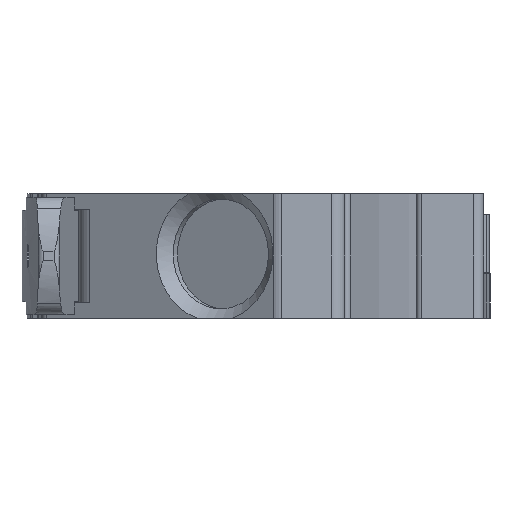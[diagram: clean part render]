
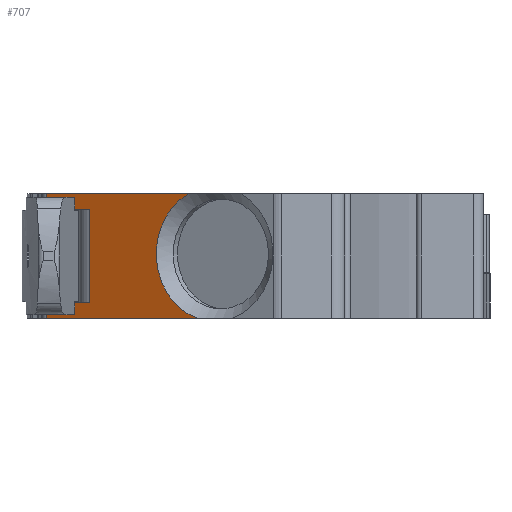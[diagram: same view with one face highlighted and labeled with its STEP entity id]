
A CAD part, left-side view. The second image highlights one B-rep face of the part: STEP entity #707.
In plain terms, the highlighted planar face has unit normal (-0.866, 0.5, 0).
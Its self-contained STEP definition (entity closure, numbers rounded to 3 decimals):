
#707 = ADVANCED_FACE( '', ( #1615 ), #1616, .F. );
#1615 = FACE_OUTER_BOUND( '', #2723, .T. );
#1616 = PLANE( '', #2724 );
#2723 = EDGE_LOOP( '', ( #4941, #4942, #4943, #4944, #4945, #4946, #4947, #4948 ) );
#2724 = AXIS2_PLACEMENT_3D( '', #4949, #4950, #4951 );
#4941 = ORIENTED_EDGE( '', *, *, #7718, .F. );
#4942 = ORIENTED_EDGE( '', *, *, #7812, .F. );
#4943 = ORIENTED_EDGE( '', *, *, #7813, .T. );
#4944 = ORIENTED_EDGE( '', *, *, #7689, .T. );
#4945 = ORIENTED_EDGE( '', *, *, #7707, .T. );
#4946 = ORIENTED_EDGE( '', *, *, #7620, .F. );
#4947 = ORIENTED_EDGE( '', *, *, #7814, .T. );
#4948 = ORIENTED_EDGE( '', *, *, #7325, .T. );
#4949 = CARTESIAN_POINT( '', ( -45.855, 35.75, 12. ) );
#4950 = DIRECTION( '', ( 0.866, -0.5, 0. ) );
#4951 = DIRECTION( '', ( 0.5, 0.866, 0. ) );
#7325 = EDGE_CURVE( '', #9071, #9068, #9072, .T. );
#7620 = EDGE_CURVE( '', #9549, #9551, #9552, .T. );
#7689 = EDGE_CURVE( '', #9653, #9651, #9654, .T. );
#7707 = EDGE_CURVE( '', #9651, #9551, #9683, .T. );
#7718 = EDGE_CURVE( '', #9696, #9068, #9699, .F. );
#7812 = EDGE_CURVE( '', #9834, #9696, #9835, .T. );
#7813 = EDGE_CURVE( '', #9834, #9653, #9836, .T. );
#7814 = EDGE_CURVE( '', #9549, #9071, #9837, .T. );
#9068 = VERTEX_POINT( '', #11568 );
#9071 = VERTEX_POINT( '', #11580 );
#9072 = LINE( '', #11581, #11582 );
#9549 = VERTEX_POINT( '', #12265 );
#9551 = VERTEX_POINT( '', #12267 );
#9552 = LINE( '', #12268, #12269 );
#9651 = VERTEX_POINT( '', #12403 );
#9653 = VERTEX_POINT( '', #12405 );
#9654 = LINE( '', #12406, #12407 );
#9683 = LINE( '', #12447, #12448 );
#9696 = VERTEX_POINT( '', #12465 );
#9699 = CIRCLE( '', #12481, 6.5 );
#9834 = VERTEX_POINT( '', #12664 );
#9835 = LINE( '', #12665, #12666 );
#9836 = LINE( '', #12667, #12668 );
#9837 = LINE( '', #12669, #12670 );
#11568 = CARTESIAN_POINT( '', ( -54.223, 21.256, 0. ) );
#11580 = CARTESIAN_POINT( '', ( -45.855, 35.75, 0. ) );
#11581 = CARTESIAN_POINT( '', ( -45.855, 35.75, 0. ) );
#11582 = VECTOR( '', #14029, 1000. );
#12265 = CARTESIAN_POINT( '', ( -45.855, 35.75, 1.5 ) );
#12267 = CARTESIAN_POINT( '', ( -48.216, 31.66, 1.5 ) );
#12268 = CARTESIAN_POINT( '', ( -45.855, 35.75, 1.5 ) );
#12269 = VECTOR( '', #14440, 1000. );
#12403 = CARTESIAN_POINT( '', ( -48.216, 31.66, 10.5 ) );
#12405 = CARTESIAN_POINT( '', ( -45.855, 35.75, 10.5 ) );
#12406 = CARTESIAN_POINT( '', ( -45.855, 35.75, 10.5 ) );
#12407 = VECTOR( '', #14527, 1000. );
#12447 = CARTESIAN_POINT( '', ( -48.216, 31.66, 10.5 ) );
#12448 = VECTOR( '', #14551, 1000. );
#12465 = CARTESIAN_POINT( '', ( -53.732, 22.107, 12. ) );
#12481 = AXIS2_PLACEMENT_3D( '', #14562, #14563, #14564 );
#12664 = CARTESIAN_POINT( '', ( -45.855, 35.75, 12. ) );
#12665 = CARTESIAN_POINT( '', ( -45.855, 35.75, 12. ) );
#12666 = VECTOR( '', #14676, 1000. );
#12667 = CARTESIAN_POINT( '', ( -45.855, 35.75, 12. ) );
#12668 = VECTOR( '', #14677, 1000. );
#12669 = CARTESIAN_POINT( '', ( -45.855, 35.75, 12. ) );
#12670 = VECTOR( '', #14678, 1000. );
#14029 = DIRECTION( '', ( -0.5, -0.866, 0. ) );
#14440 = DIRECTION( '', ( -0.5, -0.866, 0. ) );
#14527 = DIRECTION( '', ( -0.5, -0.866, 0. ) );
#14551 = DIRECTION( '', ( 0., 0., -1. ) );
#14562 = CARTESIAN_POINT( '', ( -55.199, 19.566, 6.2 ) );
#14563 = DIRECTION( '', ( 0.866, -0.5, 0. ) );
#14564 = DIRECTION( '', ( 0.5, 0.866, 0. ) );
#14676 = DIRECTION( '', ( -0.5, -0.866, 0. ) );
#14677 = DIRECTION( '', ( 0., 0., -1. ) );
#14678 = DIRECTION( '', ( 0., 0., -1. ) );
